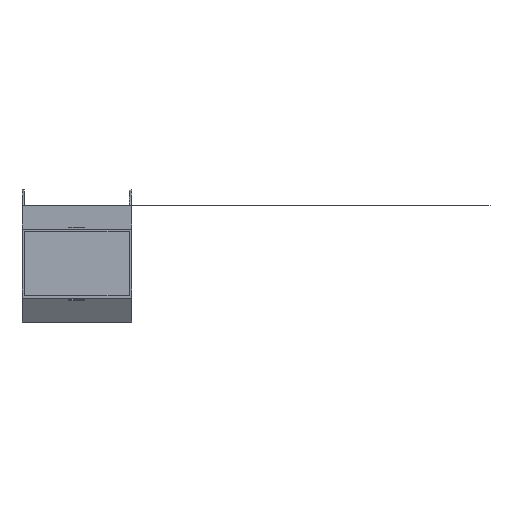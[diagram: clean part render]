
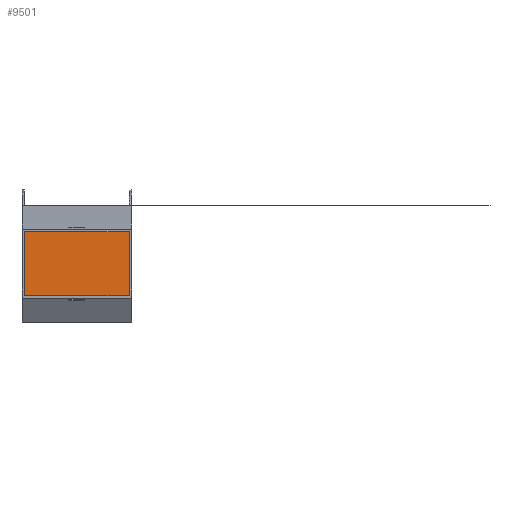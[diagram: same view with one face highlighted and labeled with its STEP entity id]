
A CAD part, front view. The second image highlights one B-rep face of the part: STEP entity #9501.
In plain terms, the highlighted planar face has unit normal (0, -1, 0).
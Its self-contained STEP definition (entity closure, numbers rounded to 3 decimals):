
#11 = CARTESIAN_POINT ( 'NONE',  ( 134., 233.75, -62.947 ) ) ;
#227 = CARTESIAN_POINT ( 'NONE',  ( 3., 233.75, -62.947 ) ) ;
#301 = VERTEX_POINT ( 'NONE', #2779 ) ;
#1219 = FACE_OUTER_BOUND ( 'NONE', #2045, .T. ) ;
#1744 = EDGE_CURVE ( 'NONE', #5976, #9011, #6091, .T. ) ;
#1970 = PLANE ( 'NONE',  #5901 ) ;
#2045 = EDGE_LOOP ( 'NONE', ( #6545, #3958, #7521, #8275 ) ) ;
#2064 = CARTESIAN_POINT ( 'NONE',  ( 3., 233.75, 62.802 ) ) ;
#2472 = VECTOR ( 'NONE', #5624, 1000. ) ;
#2571 = CARTESIAN_POINT ( 'NONE',  ( 134., 233.75, -62.947 ) ) ;
#2779 = CARTESIAN_POINT ( 'NONE',  ( 3., 233.75, -62.947 ) ) ;
#2837 = DIRECTION ( 'NONE',  ( 1., 0., 0. ) ) ;
#3159 = EDGE_CURVE ( 'NONE', #10404, #9011, #5870, .T. ) ;
#3898 = CARTESIAN_POINT ( 'NONE',  ( 134., 233.75, 62.802 ) ) ;
#3958 = ORIENTED_EDGE ( 'NONE', *, *, #6330, .T. ) ;
#4413 = DIRECTION ( 'NONE',  ( 1., 0., 0. ) ) ;
#5504 = LINE ( 'NONE', #9038, #7707 ) ;
#5624 = DIRECTION ( 'NONE',  ( 0., 0., 1. ) ) ;
#5870 = LINE ( 'NONE', #11, #6306 ) ;
#5901 = AXIS2_PLACEMENT_3D ( 'NONE', #10210, #6063, #2837 ) ;
#5976 = VERTEX_POINT ( 'NONE', #2064 ) ;
#6063 = DIRECTION ( 'NONE',  ( 0., 1., 0. ) ) ;
#6091 = LINE ( 'NONE', #10287, #8161 ) ;
#6306 = VECTOR ( 'NONE', #9910, 1000. ) ;
#6330 = EDGE_CURVE ( 'NONE', #301, #10404, #5504, .T. ) ;
#6485 = LINE ( 'NONE', #227, #2472 ) ;
#6545 = ORIENTED_EDGE ( 'NONE', *, *, #7186, .F. ) ;
#7186 = EDGE_CURVE ( 'NONE', #301, #5976, #6485, .T. ) ;
#7521 = ORIENTED_EDGE ( 'NONE', *, *, #3159, .T. ) ;
#7707 = VECTOR ( 'NONE', #8786, 1000. ) ;
#8161 = VECTOR ( 'NONE', #4413, 1000. ) ;
#8275 = ORIENTED_EDGE ( 'NONE', *, *, #1744, .F. ) ;
#8786 = DIRECTION ( 'NONE',  ( 1., 0., 0. ) ) ;
#9011 = VERTEX_POINT ( 'NONE', #3898 ) ;
#9038 = CARTESIAN_POINT ( 'NONE',  ( 3., 233.75, -62.947 ) ) ;
#9501 = ADVANCED_FACE ( 'NONE', ( #1219 ), #1970, .F. ) ;
#9910 = DIRECTION ( 'NONE',  ( 0., 0., 1. ) ) ;
#10210 = CARTESIAN_POINT ( 'NONE',  ( 3., 233.75, -62.947 ) ) ;
#10287 = CARTESIAN_POINT ( 'NONE',  ( 3., 233.75, 62.802 ) ) ;
#10404 = VERTEX_POINT ( 'NONE', #2571 ) ;
